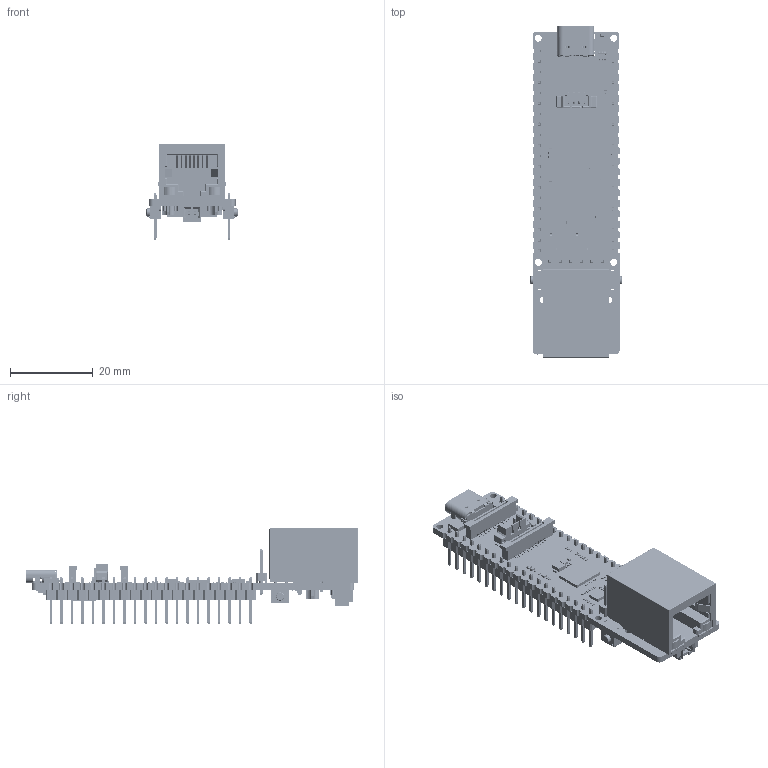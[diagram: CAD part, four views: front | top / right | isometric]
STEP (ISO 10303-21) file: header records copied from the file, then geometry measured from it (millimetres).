
FILE_DESCRIPTION((''),'2;1');
FILE_NAME('ESP32-P4-ETH_ASM','2025-12-19T19:40:41',('ag'),(''),'CREO PARAMETRIC BY PTC INC, 2021063','CREO PARAMETRIC BY PTC INC, 2021063','');
FILE_SCHEMA(('CONFIG_CONTROL_DESIGN','SHAPE_APPEARANCE_LAYERS_GROUPS'));
Products named in the file (380): BOARD-893; USER_LIBRARY-RES_0603-0201_1; USER_LIBRARY-RES_0603-0201_2; USER_LIBRARY-RES_0603-0201_3; USER_LIBRARY-RES_0603-0201_4; USER_LIBRARY-RES_0603-0201_ASM; R40_ASM; USER_LIBRARY-0201_0603M__CAP_1; USER_LIBRARY-0201_0603M__CAP_2; USER_LIBRARY-0201_0603M__CAP_3; USER_LIBRARY-0201_0603M__CAP_ASM; C67_ASM; L0402_1; L0402_2; L0402_3; L0402_ASM; ED2_ASM; _1_10001; 3_1_A; 2_100; C_0402-672_AF0_ASM_ASM; C_0402-4045_AF0_ASM_ASM; C_0402_ASM; C83_ASM; BODY; PINS_1; PINS_2; PINS_3; PINS_4; PINS_5; PINS_6; PINS_7; PINS_8; PINS_9; PINS_10; PINS_11; PINS_12; PINS_13; PINS_14; PINS_15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
Assembly tree (639 placements, depth 6):
  ESP32-P4-ETH_ASM
    BOARD-893
    R40_ASM
      USER_LIBRARY-RES_0603-0201_ASM
        USER_LIBRARY-RES_0603-0201_1
        USER_LIBRARY-RES_0603-0201_2
        USER_LIBRARY-RES_0603-0201_3
        USER_LIBRARY-RES_0603-0201_4
    C67_ASM
      USER_LIBRARY-0201_0603M__CAP_ASM
        USER_LIBRARY-0201_0603M__CAP_1
        USER_LIBRARY-0201_0603M__CAP_2
        USER_LIBRARY-0201_0603M__CAP_3
    ED2_ASM
      L0402_ASM
        L0402_1
        L0402_2
        L0402_3
    C83_ASM
      C_0402_ASM
        C_0402-4045_AF0_ASM_ASM
          C_0402-672_AF0_ASM_ASM
            _1_10001
            3_1_A
            2_100
    U10_ASM
      USER_LIBRARY-QFN32-0_4_ASM
        BODY
        PINS_ASM
          PINS_1
          PINS_2
          PINS_3
          PINS_4
          PINS_5
          PINS_6
          PINS_7
          PINS_8
          PINS_9
          PINS_10
          PINS_11
          PINS_12
          PINS_13
          PINS_14
          PINS_15
          PINS_16
          PINS_17
          PINS_18
          PINS_19
          PINS_20
          PINS_21
          PINS_22
          PINS_23
          PINS_24
          PINS_25
          PINS_26
          PINS_27
          PINS_28
          PINS_29
          PINS_30
          PINS_31
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Bounding box: 22.02 x 80.21 x 23.2 mm (x, y, z)
Volume: 7790 mm3; surface area: 12178.4 mm2
Topology: 808 solids, 825 shells, 37789 faces, 97688 edges, 63040 vertices
Faces by surface type: plane 24210, extrusion 8437, cylinder 3999, sphere 1015, torus 60, cone 36, bspline 32
Entity records: 337624 total; most frequent: CARTESIAN_POINT 68825, ORIENTED_EDGE 42912, DIRECTION 40608, EDGE_CURVE 21459, VECTOR 17856, LINE 17203, PRESENTATION_STYLE_ASSIGNMENT 16799, STYLED_ITEM 15162
